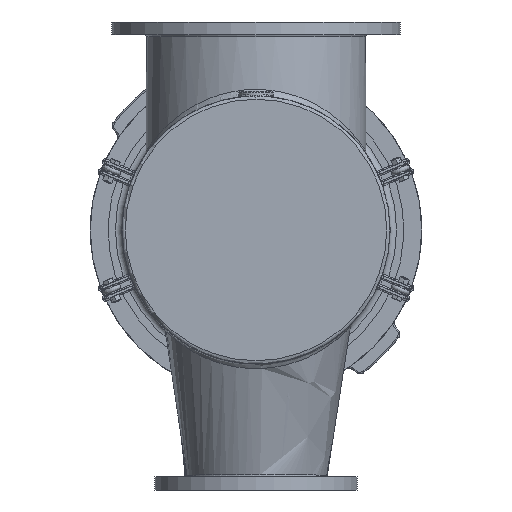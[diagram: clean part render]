
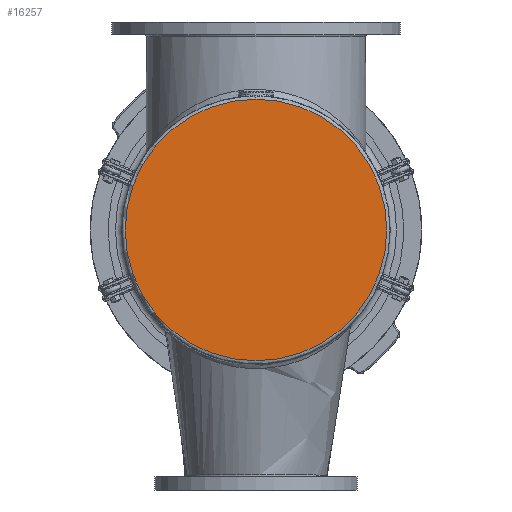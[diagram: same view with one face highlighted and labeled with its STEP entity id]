
A CAD part, front view. The second image highlights one B-rep face of the part: STEP entity #16257.
In plain terms, the highlighted planar face has unit normal (0, -1, 0).
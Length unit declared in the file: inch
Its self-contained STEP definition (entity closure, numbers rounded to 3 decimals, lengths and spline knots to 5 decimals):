
#2368=PLANE('',#17339);
#3740=FACE_OUTER_BOUND('',#4776,.T.);
#4776=EDGE_LOOP('',(#10893));
#6044=CIRCLE('',#17331,10.0625);
#7031=VERTEX_POINT('',#24739);
#8523=EDGE_CURVE('',#7031,#7031,#6044,.T.);
#10893=ORIENTED_EDGE('',*,*,#8523,.F.);
#16257=ADVANCED_FACE('',(#3740),#2368,.F.);
#17331=AXIS2_PLACEMENT_3D('',#24740,#19426,#19427);
#17339=AXIS2_PLACEMENT_3D('',#24751,#19442,#19443);
#19426=DIRECTION('center_axis',(0.,1.,0.));
#19427=DIRECTION('ref_axis',(1.,0.,0.));
#19442=DIRECTION('center_axis',(0.,1.,0.));
#19443=DIRECTION('ref_axis',(0.,0.,1.));
#24739=CARTESIAN_POINT('',(-10.0625,0.,0.));
#24740=CARTESIAN_POINT('Origin',(0.,0.,0.));
#24751=CARTESIAN_POINT('Origin',(0.,0.,0.));
